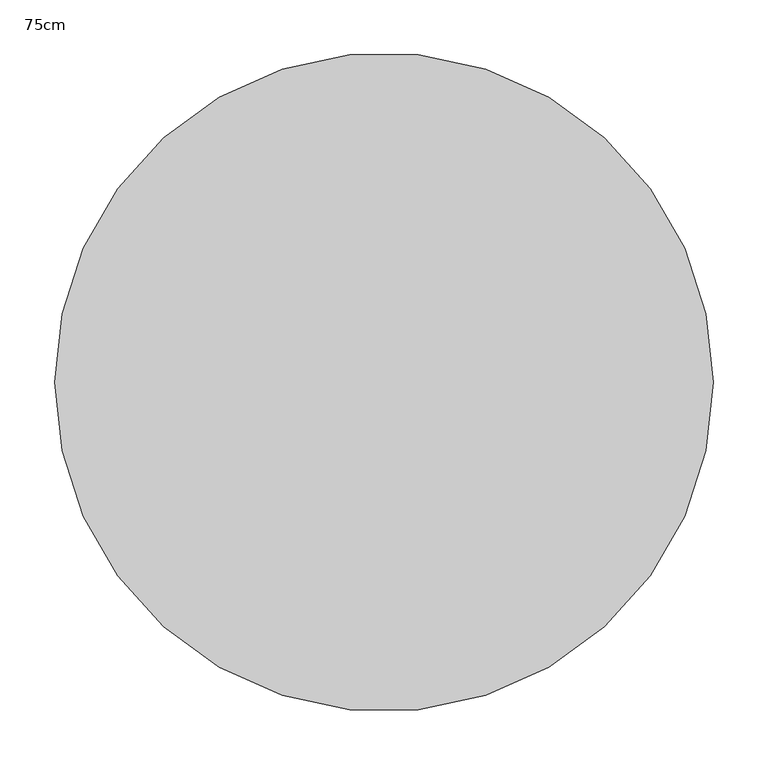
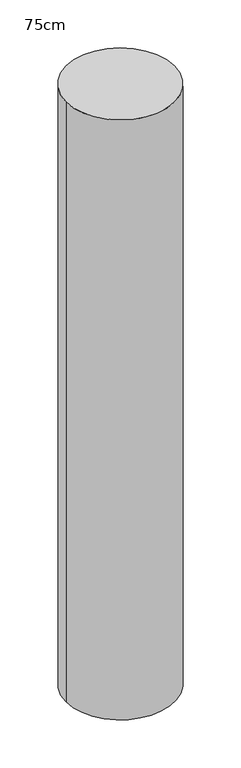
"""IFC4 building model written with IfcOpenShell, lengths in millimetres: column geometry, 混凝土柱-圓形 : 75cm."""

from ifc_helpers import new_model, si_unit, point, origin, origin_with_axes, origin_2d, place, context, project, spatial, circle_curve, trimmed, segment, composite_curve, outline, extrude, source, transform, mapped, element, save


def column_75cm_7b31edd7(model_context):
    return source(origin(), model_context, "Body", "SweptSolid", [
        extrude(outline(composite_curve([segment(trimmed(circle_curve(origin_2d(), 300.0), [point((-300.0, 0.0))], [point((300.0, 0.0))], False, "CARTESIAN"), True, "CONTINUOUS"), segment(trimmed(circle_curve(origin_2d(), 300.0), [point((300.0, 0.0))], [point((-300.0, 0.0))], False, "CARTESIAN"), True, "CONTINUOUS")], self_intersect=False)), origin_with_axes(), (0.0, 0.0, 1.0), 3500.0),
    ])


if __name__ == "__main__":
    model = new_model("IFC4")
    model_context = context("Model", 3, world=origin())
    ifc_project = project(units=[si_unit("LENGTHUNIT", "METRE", prefix="MILLI")], contexts=[model_context])
    site = spatial("IfcSite", under=ifc_project)
    building = spatial("IfcBuilding", under=site)
    placement = place(None, origin())
    column_75cm_shape = column_75cm_7b31edd7(model_context)
    element("IfcColumn", 1, ObjectType="混凝土柱-圓形 : 75cm", at=placement, inside=building, context=model_context, shape_type="MappedRepresentation", body=[
        mapped(column_75cm_shape, transform((0.0, 0.0, 0.0), x_axis=(1.0, 0.0, 0.0), y_axis=(0.0, 1.0, 0.0), z_axis=(0.0, 0.0, 1.0))),
    ])
    save(model, "model.ifc")
